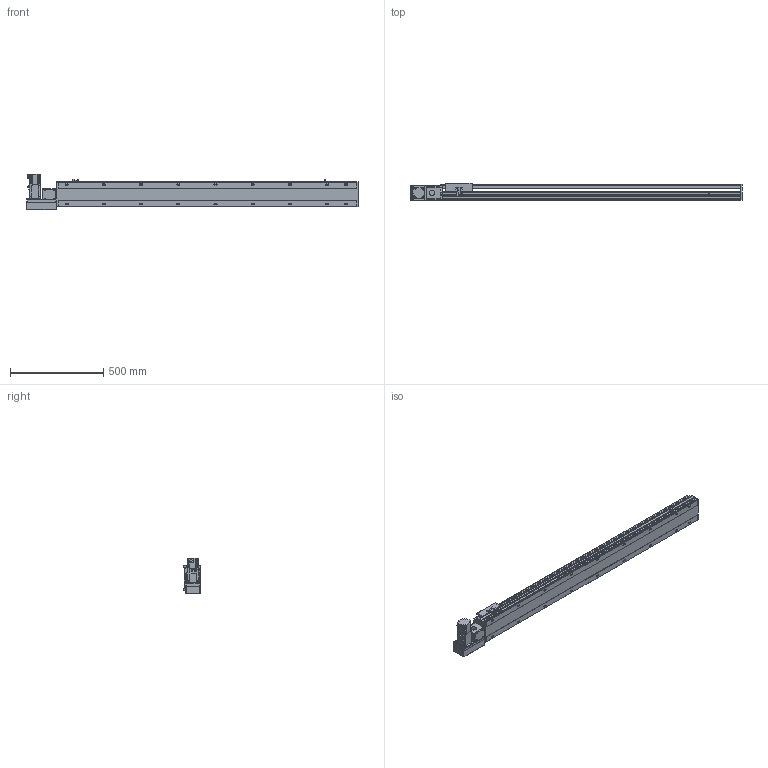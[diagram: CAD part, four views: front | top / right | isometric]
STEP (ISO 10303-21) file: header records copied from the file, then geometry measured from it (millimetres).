
FILE_DESCRIPTION( ( 'STEP AP214' ), '1' );
FILE_NAME( 'x:/temp/worker_6/temp/exporttempdir_5396_17_tDurL/format_0/PBS140S-P40-S1350-L-T40-C1-N(0).stp', '2022-06-09T00:02:01', ( 'License CC BY-ND 4.0' ), ( 'CADENAS' ), ' ', 'PARTsolutions', ' ' );
FILE_SCHEMA( ( 'AUTOMOTIVE_DESIGN { 1 0 10303 214 1 1 1 1 }' ) );
Length unit declared in the file: millimetre
Products named in the file (7): PBS140S-P40-S1350-L-T40-C1-N(0); _PBS140S-S1350()_body; _PBS140ST-L_motors; _T40-p1; _PBS140S_sliser; _PBS140S_plant; _PBS140S_sensor
Assembly tree (8 placements, depth 2):
  PBS140S-P40-S1350-L-T40-C1-N(0)
    _PBS140S-S1350()_body
    _PBS140ST-L_motors
    _T40-p1
    _PBS140S_sliser
    _PBS140S_plant
    _PBS140S_sensor  x3
Bounding box: 1783 x 93 x 189.7 mm (x, y, z)
Volume: 8632684.9 mm3; surface area: 1480140.2 mm2
Topology: 8 solids, 8 shells, 1115 faces, 2951 edges, 1931 vertices
Faces by surface type: plane 708, cylinder 353, cone 44, sphere 8, torus 2
Full cylindrical faces by diameter (mm): 3.242 x4, 4 x2, 4.134 x4, 4.4 x8, 4.5 x2, 4.8 x4, 4.917 x26, 5.5 x7, 6 x2, 7 x20, 7.5 x8, 8 x12, 8.5 x4, 10.5 x18, 14 x1, 30 x2, 50 x2
Entity records: 40978 total; most frequent: CARTESIAN_POINT 6574, DIRECTION 5418, ORIENTED_EDGE 5122, EDGE_CURVE 2561, AXIS2_PLACEMENT_3D 1889, VERTEX_POINT 1777, LINE 1640, VECTOR 1640
